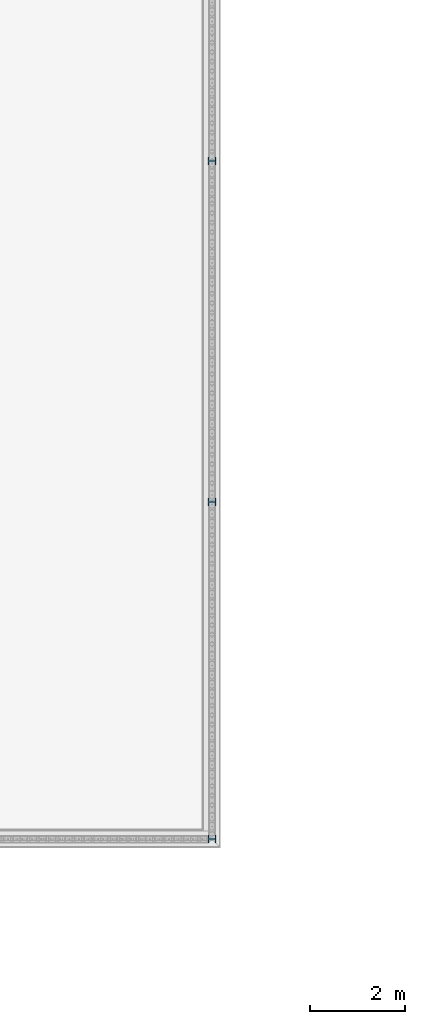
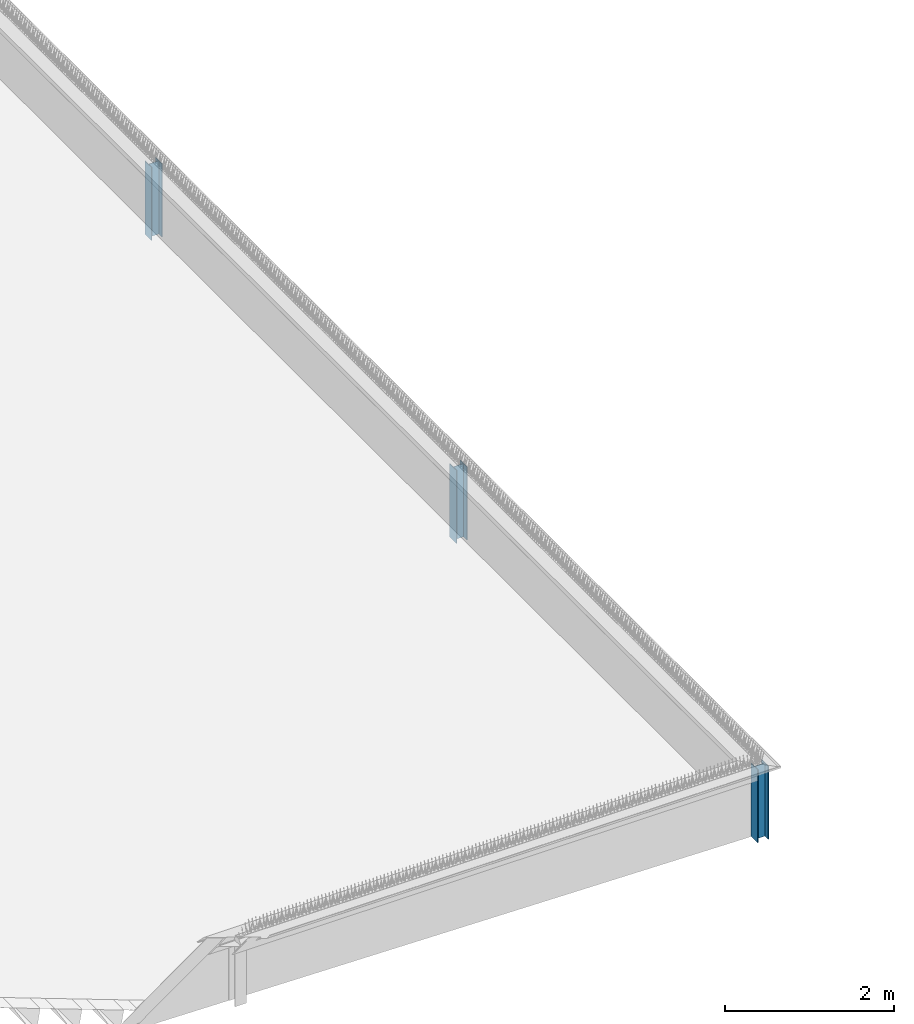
# One storey, part 11 of 81: 3 columns.
"""IFC2X3 building model written with IfcOpenShell, lengths in millimetres."""

from ifc_helpers import new_model, entity, si_unit, converted_unit, derived_unit, money_unit, direction, frame, origin_with_axes, place, context, subcontext, project, spatial, faceted_brep, material, type_object, element, save


model = new_model("IFC2X3")

# Units and contexts
model_context = context("Model", 3, precision=0.01, world=origin_with_axes(), true_north=direction((0.0, 1.0)))
body_context = subcontext(model_context, "Body", "Model", "MODEL_VIEW")
ifc_project = project(units=[si_unit("LENGTHUNIT", "METRE", prefix="MILLI"), si_unit("AREAUNIT", "SQUARE_METRE"), si_unit("VOLUMEUNIT", "CUBIC_METRE"), converted_unit("PLANEANGLEUNIT", "DEGREE", entity("IfcPlaneAngleMeasure", 0.0174532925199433), si_unit("PLANEANGLEUNIT", "RADIAN"), dimensions=[0, 0, 0, 0, 0, 0, 0]), money_unit("EUR"), converted_unit("TIMEUNIT", "Year", entity("IfcTimeMeasure", 31557600.0), si_unit("TIMEUNIT", "SECOND"), dimensions=[0, 0, 1, 0, 0, 0, 0]), si_unit("MASSUNIT", "GRAM", prefix="KILO"), si_unit("THERMODYNAMICTEMPERATUREUNIT", "DEGREE_CELSIUS"), si_unit("LUMINOUSINTENSITYUNIT", "LUMEN"), si_unit("ENERGYUNIT", "JOULE", prefix="MEGA"), derived_unit("THERMALCONDUCTANCEUNIT", [(si_unit("POWERUNIT", "WATT"), 1), (si_unit("LENGTHUNIT", "METRE"), -1), (si_unit("THERMODYNAMICTEMPERATUREUNIT", "KELVIN"), -1)]), derived_unit("SPECIFICHEATCAPACITYUNIT", [(si_unit("ENERGYUNIT", "JOULE"), 1), (si_unit("MASSUNIT", "GRAM", prefix="KILO"), -1), (si_unit("THERMODYNAMICTEMPERATUREUNIT", "KELVIN"), -1)]), derived_unit("MASSDENSITYUNIT", [(si_unit("MASSUNIT", "GRAM", prefix="KILO"), 1), (si_unit("VOLUMEUNIT", "CUBIC_METRE"), -1)])], contexts=[model_context])

# Site, building, storey
site_placement = place(None, origin_with_axes())
site = spatial("IfcSite", under=ifc_project, at=site_placement, Name="Site", CompositionType="ELEMENT")
building_placement = place(site_placement, origin_with_axes())
building = spatial("IfcBuilding", under=site, at=building_placement, Name="Naam gebouw", CompositionType="ELEMENT")
storey_placement = place(building_placement, frame((0.0, 0.0, 15320.0), z_axis=(0.0, 0.0, 1.0), x_axis=(1.0, 0.0, 0.0)))
storey = spatial("IfcBuildingStorey", under=building, at=storey_placement, Name="01 dak", CompositionType="ELEMENT", Elevation=15320.0)

# Columns
ifc_material = material(Name="Metaal - Staal C")
column_type = type_object("IfcColumnType", Name="HEA160 160 x 152", PredefinedType="COLUMN")
for number, where, z_axis, x_axis, name in (
    (1, (126824.0, 76400.0, -400.0393597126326), (0.0, 0.0, 1.0), (0.0, -1.0, 0.0), "HEA160"),
    (2, (126824.0, 69200.0, -400.0393597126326), (0.0, 0.0, 1.0), (0.0, -1.0, 0.0), "HEA160"),
    (3, (126824.0, 62080.0, -400.0393597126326), (0.0, 0.0, 1.0), (0.0, -1.0, 0.0), "HEA160"),
):
    element("IfcColumn", number, at=place(storey_placement, frame(where, z_axis=z_axis, x_axis=x_axis)), inside=storey, type_object=column_type, material=ifc_material, Name=name, ObjectType="COLUMN", context=body_context, shape_type="Brep", body=[
        faceted_brep([(-79.9999999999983, 75.9999999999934, 1055.0), (-79.9999999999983, 75.9999999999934, 0.0), (-79.9999999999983, 66.99999999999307, 0.0), (-79.9999999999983, 66.99999999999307, 1055.0), (79.9999999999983, 75.9999999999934, 1055.0), (79.9999999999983, 75.9999999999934, 0.0), (79.9999999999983, 66.99999999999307, 0.0), (3.000000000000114, 66.99999999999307, 0.0), (3.000000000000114, -66.99999999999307, 0.0), (79.9999999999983, -66.99999999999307, 0.0), (79.9999999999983, -75.9999999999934, 0.0), (-79.9999999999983, -75.9999999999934, 0.0), (-79.9999999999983, -66.99999999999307, 0.0), (-3.000000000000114, -66.99999999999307, 0.0), (-3.000000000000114, 66.99999999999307, 0.0), (-3.000000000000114, 66.99999999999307, 1055.0), (-3.000000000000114, -66.99999999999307, 1055.0), (-79.9999999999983, -66.99999999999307, 1055.0), (-79.9999999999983, -75.9999999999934, 1055.0), (79.9999999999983, -75.9999999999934, 1055.0), (79.9999999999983, -66.99999999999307, 1055.0), (3.000000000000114, -66.99999999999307, 1055.0), (3.000000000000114, 66.99999999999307, 1055.0), (79.9999999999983, 66.99999999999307, 1055.0)], [[[0, 1, 2, 3]], [[4, 5, 1, 0]], [[2, 1, 5, 6, 7, 8, 9, 10, 11, 12, 13, 14]], [[3, 2, 14, 15]], [[4, 0, 3, 15, 16, 17, 18, 19, 20, 21, 22, 23]], [[23, 6, 5, 4]], [[22, 7, 6, 23]], [[21, 8, 7, 22]], [[20, 9, 8, 21]], [[19, 10, 9, 20]], [[18, 11, 10, 19]], [[17, 12, 11, 18]], [[16, 13, 12, 17]], [[15, 14, 13, 16]]]),
    ])

save(model, "model.ifc")
